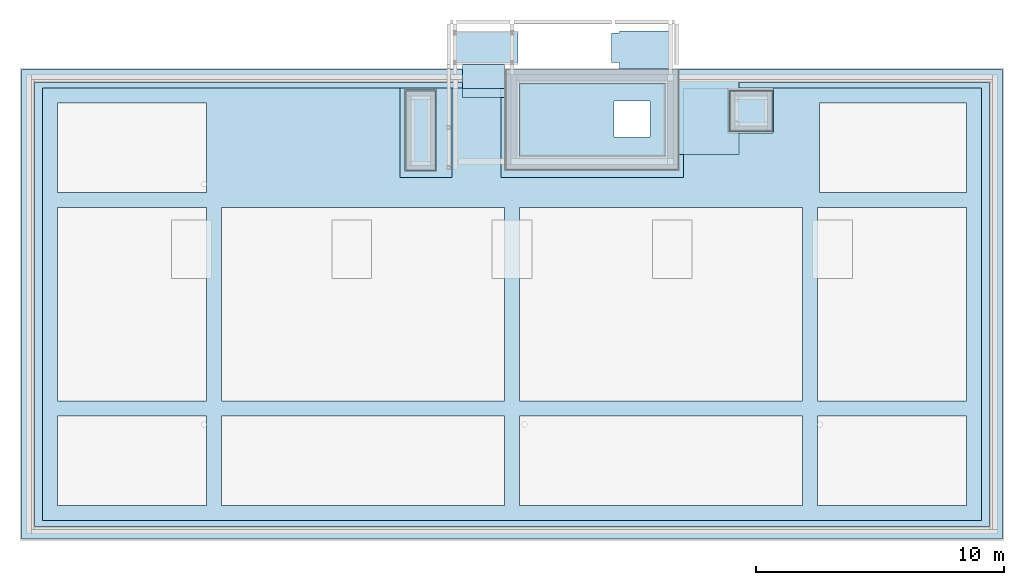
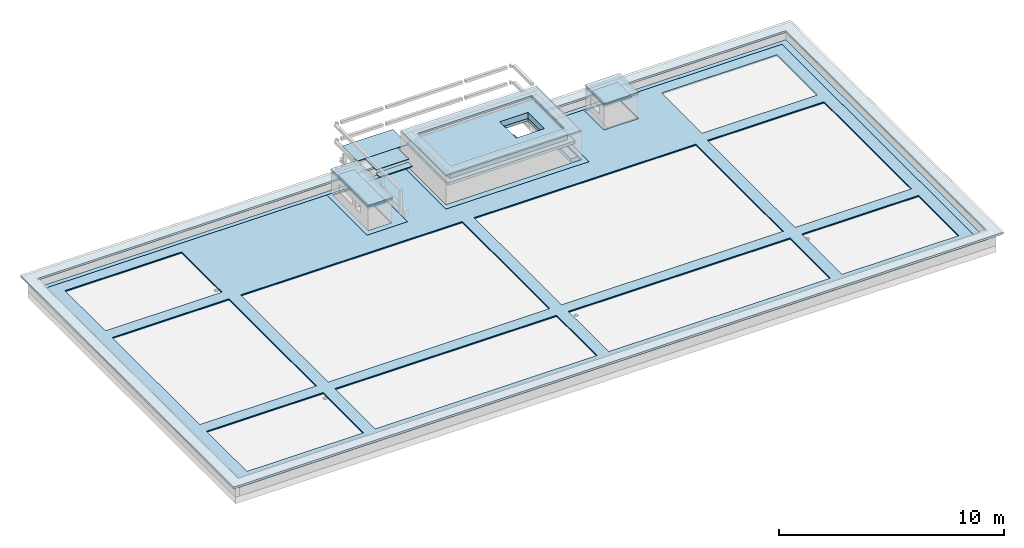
# One storey, part 5 of 8: 19 slabs, 27 openings, 2 elements without a shape of their own.
"""IFC2X3 building model written with IfcOpenShell, lengths in centimetres."""

from ifc_helpers import new_model, entity, si_unit, converted_unit, derived_unit, direction, frame, frame_2d, origin, origin_2d_with_axis, place, context, subcontext, project, spatial, polyline, rectangle, outline, extrude, material, layer, layer_set, layer_usage, type_object, element, aggregate, save


model = new_model("IFC2X3")

# Units and contexts
model_context = context("Model", 3, precision=0.001, world=origin(), true_north=direction((6.12303176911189e-17, 1.0)))
body_context = subcontext(model_context, "Body", "Model", "MODEL_VIEW")
ifc_project = project(units=[si_unit("LENGTHUNIT", "METRE", prefix="CENTI"), si_unit("AREAUNIT", "SQUARE_METRE"), si_unit("VOLUMEUNIT", "CUBIC_METRE"), converted_unit("PLANEANGLEUNIT", "DEGREE", entity("IfcRatioMeasure", 0.0174532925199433), si_unit("PLANEANGLEUNIT", "RADIAN"), dimensions=[0, 0, 0, 0, 0, 0, 0]), si_unit("MASSUNIT", "GRAM", prefix="KILO"), derived_unit("MASSDENSITYUNIT", [(si_unit("MASSUNIT", "GRAM", prefix="KILO"), 1), (si_unit("LENGTHUNIT", "METRE"), -3)]), derived_unit("MOMENTOFINERTIAUNIT", [(si_unit("LENGTHUNIT", "METRE"), 4)]), si_unit("TIMEUNIT", "SECOND"), si_unit("FREQUENCYUNIT", "HERTZ"), si_unit("THERMODYNAMICTEMPERATUREUNIT", "DEGREE_CELSIUS"), derived_unit("THERMALTRANSMITTANCEUNIT", [(si_unit("MASSUNIT", "GRAM", prefix="KILO"), 1), (si_unit("THERMODYNAMICTEMPERATUREUNIT", "KELVIN"), -1), (si_unit("TIMEUNIT", "SECOND"), -3)]), derived_unit("VOLUMETRICFLOWRATEUNIT", [(si_unit("LENGTHUNIT", "METRE"), 3), (si_unit("TIMEUNIT", "SECOND"), -1)]), si_unit("ELECTRICCURRENTUNIT", "AMPERE"), si_unit("ELECTRICVOLTAGEUNIT", "VOLT"), si_unit("POWERUNIT", "WATT"), si_unit("FORCEUNIT", "NEWTON", prefix="KILO"), si_unit("ILLUMINANCEUNIT", "LUX"), si_unit("LUMINOUSFLUXUNIT", "LUMEN"), si_unit("LUMINOUSINTENSITYUNIT", "CANDELA"), derived_unit("USERDEFINED", [(si_unit("MASSUNIT", "GRAM", prefix="KILO"), -1), (si_unit("LENGTHUNIT", "METRE"), -2), (si_unit("TIMEUNIT", "SECOND"), 3), (si_unit("LUMINOUSFLUXUNIT", "LUMEN"), 1)]), derived_unit("LINEARVELOCITYUNIT", [(si_unit("LENGTHUNIT", "METRE"), 1), (si_unit("TIMEUNIT", "SECOND"), -1)]), si_unit("PRESSUREUNIT", "PASCAL"), derived_unit("USERDEFINED", [(si_unit("LENGTHUNIT", "METRE"), -2), (si_unit("MASSUNIT", "GRAM", prefix="KILO"), 1), (si_unit("TIMEUNIT", "SECOND"), -2)]), derived_unit("LINEARFORCEUNIT", [(si_unit("MASSUNIT", "GRAM", prefix="KILO"), 1), (si_unit("LENGTHUNIT", "METRE"), 1), (si_unit("TIMEUNIT", "SECOND"), -2), (si_unit("LENGTHUNIT", "METRE"), -1)]), derived_unit("PLANARFORCEUNIT", [(si_unit("MASSUNIT", "GRAM", prefix="KILO"), 1), (si_unit("LENGTHUNIT", "METRE"), 1), (si_unit("TIMEUNIT", "SECOND"), -2), (si_unit("LENGTHUNIT", "METRE"), -2)])], contexts=[model_context])

# Site, building, storey
site_placement = place(None, origin())
site = spatial("IfcSite", under=ifc_project, at=site_placement, Name="Default", CompositionType="ELEMENT")
building_placement = place(site_placement, origin())
building = spatial("IfcBuilding", under=site, at=building_placement, CompositionType="ELEMENT")
storey_placement = place(building_placement, frame((0.0, 0.0, 970.0)))
storey = spatial("IfcBuildingStorey", under=building, at=storey_placement, Name="Poziom 2K +9,70", CompositionType="ELEMENT", Elevation=970.0)

# Slab, opening
ifc_material_1 = material(Name="_Beton, C25/30")
ifc_layer_1 = layer(ifc_material_1, 15.0)
ifc_layer_set_1 = layer_set([ifc_layer_1], Name="Strop:Strop żebetowy gr. 15cm")
ifc_layer_usage_1 = layer_usage(ifc_layer_set_1, "AXIS3", "POSITIVE", 0.0)
slab_type_1 = type_object("IfcSlabType", Name="Strop:Strop żebetowy gr. 15cm", PredefinedType="FLOOR", material=ifc_layer_set_1)
slab_1_placement = place(storey_placement, frame((-984.265107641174, 1743.12745160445, 109.0)))
slab_1 = element("IfcSlab", 1, at=slab_1_placement, inside=storey, type_object=slab_type_1, material=ifc_layer_usage_1, Name="Strop:Strop żebetowy gr. 15cm", ObjectType="Strop:Strop żebetowy gr. 15cm", PredefinedType="FLOOR", context=body_context, shape_type="SweptSolid", body=[
    extrude(rectangle(XDim=654.999989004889, YDim=362.000000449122, at=frame_2d((0.0, 0.0), x_axis=(-1.0, 0.0))), frame((327.499994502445, 181.0, 15.0), z_axis=(0.0, 0.0, -1.0), x_axis=(-1.0, 0.0, 0.0)), (0.0, 0.0, 1.0), 15.0000000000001),
])
opening_1_placement = place(slab_1_placement, frame((487.500026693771, 183.499991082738, 15.0)))
element("IfcOpeningElement", 2, at=opening_1_placement, cuts=slab_1, Name="Strop:Strop żebetowy gr. 15cm:2", ObjectType="Opening", context=body_context, shape_type="SweptSolid", body=[
    extrude(rectangle(XDim=145.0, YDim=144.999999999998, at=origin_2d_with_axis()), frame((0.0, 0.0, 0.0), z_axis=(0.0, 0.0, -1.0), x_axis=(1.0, 0.0, 0.0)), (0.0, 0.0, 1.0), 15.0000000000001),
])

# Slabs
ifc_material_2 = material(Name="_Beton C30/37")
ifc_layer_2 = layer(ifc_material_2, 20.0)
ifc_layer_set_2 = layer_set([ifc_layer_2], Name="Strop:Strop żelbetowy gr. 20cm")
ifc_layer_usage_2 = layer_usage(ifc_layer_set_2, "AXIS3", "POSITIVE", 0.0)
slab_type_2 = type_object("IfcSlabType", Name="Strop:Strop żelbetowy gr. 20cm", PredefinedType="FLOOR", material=ifc_layer_set_2)
slab_2_placement = place(storey_placement, origin())
element("IfcSlab", 3, at=slab_2_placement, inside=storey, type_object=slab_type_2, material=ifc_layer_usage_2, Name="Strop:Strop żelbetowy gr. 20cm", ObjectType="Strop:Strop żelbetowy gr. 20cm", PredefinedType="FLOOR", context=body_context, shape_type="SweptSolid", body=[
    extrude(rectangle(XDim=301.435259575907, YDim=263.49999754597, at=origin_2d_with_axis()), frame((-197.515113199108, 1934.40982229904, 0.0), z_axis=(0.0, 0.0, -1.0), x_axis=(0.0, 1.0, 0.0)), (0.0, 0.0, 1.0), 20.0),
])
ifc_layer_3 = layer(ifc_material_2, 10.0)
ifc_layer_set_3 = layer_set([ifc_layer_3], Name="Strop:Strop gr. 10 cm")
ifc_layer_usage_3 = layer_usage(ifc_layer_set_3, "AXIS3", "POSITIVE", 0.0)
slab_type_3 = type_object("IfcSlabType", Name="Strop:Strop gr. 10 cm", PredefinedType="FLOOR", material=ifc_layer_set_3)
slab_3_placement = place(storey_placement, origin())
element("IfcSlab", 4, at=slab_3_placement, inside=storey, type_object=slab_type_3, material=ifc_layer_usage_3, Name="Strop:Strop gr. 10 cm", ObjectType="Strop:Strop gr. 10 cm", PredefinedType="FLOOR", context=body_context, shape_type="SweptSolid", body=[
    extrude(rectangle(XDim=280.000146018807, YDim=80.0000584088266, at=frame_2d((0.0, -1.06581410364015e-13), x_axis=(1.0, 0.0))), frame((-1346.76514246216, 1880.12752506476, 143.0), z_axis=(0.0, 0.0, -1.0), x_axis=(0.0, 1.0, 0.0)), (0.0, 0.0, 1.0), 9.99999999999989),
])
ifc_material_3 = material(Name="Polistyren ekstrudowany (XPS)")
ifc_layer_4 = layer(ifc_material_3, 10.0)
ifc_layer_set_4 = layer_set([ifc_layer_4], Name="Strop:Stropodach - Polistyren ekstrudowany (XPS) 10 cm")
ifc_layer_usage_4 = layer_usage(ifc_layer_set_4, "AXIS3", "POSITIVE", 0.0)
slab_type_4 = type_object("IfcSlabType", Name="Strop:Stropodach - Polistyren ekstrudowany (XPS) 10 cm", PredefinedType="FLOOR", material=ifc_layer_set_4)
slab_4_placement = place(storey_placement, origin())
element("IfcSlab", 5, at=slab_4_placement, inside=storey, type_object=slab_type_4, material=ifc_layer_usage_4, Name="Strop:Stropodach - Polistyren ekstrudowany (XPS) 10 cm", ObjectType="Strop:Stropodach - Polistyren ekstrudowany (XPS) 10 cm", PredefinedType="FLOOR", context=body_context, shape_type="SweptSolid", body=[
    extrude(outline(polyline([(-1251.66670097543, -2082.50001004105), (638.33329909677, -2082.50001004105), (638.33329909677, -132.499998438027), (588.333299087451, -132.499998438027), (588.333299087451, -2032.49999843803), (-1201.66649539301, -2032.49999843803), (-1201.66649539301, 1817.500013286), (588.333299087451, 1817.500013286), (588.333299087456, 562.499998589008), (638.333299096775, 562.499998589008), (638.33329909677, 1867.4999950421), (-1251.66670097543, 1867.4999950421), (-1251.66670097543, -2082.50001004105)])), frame((-871.765110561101, 1486.79415299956, 75.0), z_axis=(0.0, 0.0, -1.0), x_axis=(0.0, 1.0, 0.0)), (0.0, 0.0, 1.0), 9.99999999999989),
])

# Slab, openings
ifc_material_4 = material(Name="Płytki tarasowe")
ifc_layer_5 = layer(ifc_material_4, 4.0)
ifc_layer_set_5 = layer_set([ifc_layer_5], Name="Strop:Płytki tarasowe gr. 4cm")
ifc_layer_usage_5 = layer_usage(ifc_layer_set_5, "AXIS3", "POSITIVE", 0.0)
slab_type_5 = type_object("IfcSlabType", Name="Strop:Płytki tarasowe gr. 4cm", PredefinedType="FLOOR", material=ifc_layer_set_5)
slab_5_placement = place(storey_placement, frame((-2869.26511062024, 310.752452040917, 24.0)))
slab_5 = element("IfcSlab", 6, at=slab_5_placement, inside=storey, type_object=slab_type_5, material=ifc_layer_usage_5, Name="Strop:Płytki tarasowe gr. 4cm", ObjectType="Strop:Płytki tarasowe gr. 4cm", PredefinedType="FLOOR", context=body_context, shape_type="SweptSolid", body=[
    extrude(outline(polyline([(1890.0, 870.0), (450.0, 870.0), (450.0, 510.0), (242.49998292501, 510.0), (242.499982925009, 870.0), (45.0, 870.0), (45.0, 510.0), (-690.0, 510.0), (-690.0, 870.0), (-870.0, 870.0), (-870.0, 690.0), (-1050.0, 690.0), (-1050.0, 870.0), (-1890.0, 870.0), (-1890.0, -870.0), (1890.0, -870.0), (1890.0, 870.0)])), frame((1890.0, 870.0, 4.0), z_axis=(0.0, 0.0, -1.0), x_axis=(-1.0, 0.0, 0.0)), (0.0, 0.0, 1.0), 3.99999999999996),
])
opening_2_placement = place(slab_5_placement, frame((360.0, 1500.0, 4.0)))
element("IfcOpeningElement", 7, at=opening_2_placement, cuts=slab_5, Name="Strop:Płytki tarasowe gr. 4cm:2", ObjectType="Opening", context=body_context, shape_type="SweptSolid", body=[
    extrude(rectangle(XDim=600.0, YDim=360.0, at=origin_2d_with_axis()), origin(), (0.0, 0.0, -1.0), 3.99999999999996),
])
opening_3_placement = place(slab_5_placement, frame((360.0, 870.0, 4.0)))
element("IfcOpeningElement", 8, at=opening_3_placement, cuts=slab_5, Name="Strop:Płytki tarasowe gr. 4cm:3", ObjectType="Opening", context=body_context, shape_type="SweptSolid", body=[
    extrude(rectangle(XDim=600.0, YDim=780.000000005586, at=origin_2d_with_axis()), frame((0.0, 0.0, 0.0), z_axis=(0.0, 0.0, -1.0), x_axis=(1.0, 0.0, 0.0)), (0.0, 0.0, 1.0), 3.99999999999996),
])
opening_4_placement = place(slab_5_placement, frame((360.0, 240.0, 4.0)))
element("IfcOpeningElement", 9, at=opening_4_placement, cuts=slab_5, Name="Strop:Płytki tarasowe gr. 4cm:4", ObjectType="Opening", context=body_context, shape_type="SweptSolid", body=[
    extrude(rectangle(XDim=599.999999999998, YDim=359.999999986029, at=origin_2d_with_axis()), frame((0.0, 0.0, 0.0), z_axis=(0.0, 0.0, -1.0), x_axis=(1.0, 0.0, 0.0)), (0.0, 0.0, 1.0), 3.99999999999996),
])
opening_5_placement = place(slab_5_placement, frame((1290.0, 240.0, 4.0)))
element("IfcOpeningElement", 10, at=opening_5_placement, cuts=slab_5, Name="Strop:Płytki tarasowe gr. 4cm:5", ObjectType="Opening", context=body_context, shape_type="SweptSolid", body=[
    extrude(rectangle(XDim=359.999999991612, YDim=1139.99999994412, at=origin_2d_with_axis()), frame((0.0, 0.0, 0.0), z_axis=(0.0, 0.0, -1.0), x_axis=(0.0, -1.0, 0.0)), (0.0, 0.0, 1.0), 3.99999999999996),
])
opening_6_placement = place(slab_5_placement, frame((1290.0, 870.0, 4.0)))
element("IfcOpeningElement", 11, at=opening_6_placement, cuts=slab_5, Name="Strop:Płytki tarasowe gr. 4cm:6", ObjectType="Opening", context=body_context, shape_type="SweptSolid", body=[
    extrude(rectangle(XDim=1139.99999994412, YDim=780.000000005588, at=origin_2d_with_axis()), frame((0.0, 0.0, 0.0), z_axis=(0.0, 0.0, -1.0), x_axis=(-1.0, 0.0, 0.0)), (0.0, 0.0, 1.0), 3.99999999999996),
])
opening_7_placement = place(slab_5_placement, frame((2490.0, 240.0, 4.0)))
element("IfcOpeningElement", 12, at=opening_7_placement, cuts=slab_5, Name="Strop:Płytki tarasowe gr. 4cm:7", ObjectType="Opening", context=body_context, shape_type="SweptSolid", body=[
    extrude(rectangle(XDim=359.999999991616, YDim=1139.9999999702, at=origin_2d_with_axis()), frame((0.0, 0.0, 0.0), z_axis=(0.0, 0.0, -1.0), x_axis=(0.0, 1.0, 0.0)), (0.0, 0.0, 1.0), 3.99999999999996),
])
opening_8_placement = place(slab_5_placement, frame((3420.0, 240.0, 4.0)))
element("IfcOpeningElement", 13, at=opening_8_placement, cuts=slab_5, Name="Strop:Płytki tarasowe gr. 4cm:8", ObjectType="Opening", context=body_context, shape_type="SweptSolid", body=[
    extrude(rectangle(XDim=600.000000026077, YDim=359.999999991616, at=origin_2d_with_axis()), frame((0.0, 0.0, 0.0), z_axis=(0.0, 0.0, -1.0), x_axis=(-1.0, 0.0, 0.0)), (0.0, 0.0, 1.0), 3.99999999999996),
])
opening_9_placement = place(slab_5_placement, frame((3420.0, 870.0, 4.0)))
element("IfcOpeningElement", 14, at=opening_9_placement, cuts=slab_5, Name="Strop:Płytki tarasowe gr. 4cm:9", ObjectType="Opening", context=body_context, shape_type="SweptSolid", body=[
    extrude(rectangle(XDim=780.000000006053, YDim=600.000000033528, at=origin_2d_with_axis()), frame((0.0, 0.0, 0.0), z_axis=(0.0, 0.0, -1.0), x_axis=(0.0, 1.0, 0.0)), (0.0, 0.0, 1.0), 3.99999999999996),
])
opening_10_placement = place(slab_5_placement, frame((3423.8200030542, 1500.0, 4.0)))
element("IfcOpeningElement", 15, at=opening_10_placement, cuts=slab_5, Name="Strop:Płytki tarasowe gr. 4cm:10", ObjectType="Opening", context=body_context, shape_type="SweptSolid", body=[
    extrude(rectangle(XDim=359.99999996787, YDim=592.359993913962, at=origin_2d_with_axis()), frame((0.0, 0.0, 0.0), z_axis=(0.0, 0.0, -1.0), x_axis=(0.0, 1.0, 0.0)), (0.0, 0.0, 1.0), 3.99999999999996),
])
opening_11_placement = place(slab_5_placement, frame((2490.0, 870.0, 4.0)))
element("IfcOpeningElement", 16, at=opening_11_placement, cuts=slab_5, Name="Strop:Płytki tarasowe gr. 4cm:11", ObjectType="Opening", context=body_context, shape_type="SweptSolid", body=[
    extrude(rectangle(XDim=780.000000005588, YDim=1139.9999999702, at=origin_2d_with_axis()), frame((0.0, 0.0, 0.0), z_axis=(0.0, 0.0, -1.0), x_axis=(0.0, 1.0, 0.0)), (0.0, 0.0, 1.0), 3.99999999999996),
])

# Slab, opening
ifc_material_5 = material(Name="Opaska żwirowa")
ifc_layer_6 = layer(ifc_material_5, 8.0)
ifc_layer_set_6 = layer_set([ifc_layer_6], Name="Strop:Opaska żwirowa gr. 8cm")
ifc_layer_usage_6 = layer_usage(ifc_layer_set_6, "AXIS3", "POSITIVE", 0.0)
slab_type_6 = type_object("IfcSlabType", Name="Strop:Opaska żwirowa gr. 8cm", PredefinedType="FLOOR", material=ifc_layer_set_6)
slab_6_placement = place(storey_placement, frame((-2902.26510899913, 287.12765760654, 20.0)))
slab_6 = element("IfcSlab", 17, at=slab_6_placement, inside=storey, type_object=slab_type_6, material=ifc_layer_usage_6, Name="Strop:Opaska żwirowa gr. 8cm", ObjectType="Strop:Opaska żwirowa gr. 8cm", PredefinedType="FLOOR", context=body_context, shape_type="SweptSolid", body=[
    extrude(outline(polyline([(27.0000058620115, 892.99989724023), (27.0000058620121, 540.999895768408), (-671.999991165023, 540.999895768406), (-671.999991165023, 892.999897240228), (-1923.00000586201, 892.999897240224), (-1923.00000586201, -892.99989724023), (1923.00000586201, -892.99989724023), (1923.00000586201, 892.999897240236), (27.0000058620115, 892.99989724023)])), frame((1923.00000586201, 892.99989724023, 8.0), z_axis=(0.0, 0.0, -1.0), x_axis=(-1.0, 0.0, 0.0)), (0.0, 0.0, 1.0), 7.99999999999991),
])
opening_12_placement = place(slab_6_placement, frame((2084.24999838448, 1238.6247944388, 8.0)))
element("IfcOpeningElement", 18, at=opening_12_placement, cuts=slab_6, Name="Strop:Opaska żwirowa gr. 8cm:2", ObjectType="Opening", context=body_context, shape_type="SweptSolid", body=[
    extrude(outline(polyline([(-2051.25000000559, -525.0), (-206.250000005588, -525.0), (-206.250000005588, -165.0), (528.750000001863, -165.0), (528.750000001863, -525.0), (1728.75000000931, -525.0), (1728.75000000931, 1215.0), (-2051.25000000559, 1215.0), (-2051.25000000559, -525.0)])), frame((0.0, 0.0, 0.0), z_axis=(0.0, 0.0, -1.0), x_axis=(1.0, 0.0, 0.0)), (0.0, 0.0, 1.0), 7.99999999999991),
])

# Slab
ifc_layer_usage_7 = layer_usage(ifc_layer_set_3, "AXIS3", "POSITIVE", 0.0)
slab_type_7 = type_object("IfcSlabType", Name="Strop:Strop gr. 10 cm", PredefinedType="FLOOR", material=ifc_layer_set_3)
slab_7_placement = place(storey_placement, origin())
element("IfcSlab", 19, at=slab_7_placement, inside=storey, type_object=slab_type_7, material=ifc_layer_usage_7, Name="Strop:Strop gr. 10 cm", ObjectType="Strop:Strop gr. 10 cm", PredefinedType="FLOOR", context=body_context, shape_type="SweptSolid", body=[
    extrude(rectangle(XDim=120.001722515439, YDim=129.999993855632, at=frame_2d((-1.10134124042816e-13, 0.0), x_axis=(1.0, 0.0))), frame((-15.765117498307, 1959.12664952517, 143.0), z_axis=(0.0, 0.0, -1.0), x_axis=(0.0, 1.0, 0.0)), (0.0, 0.0, 1.0), 9.99999999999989),
])

# Slab, opening
ifc_material_6 = material(Name="Wełna skalna")
ifc_layer_7 = layer(ifc_material_6, 32.0)
ifc_layer_set_7 = layer_set([ifc_layer_7], Name="Strop:Wełna mineralna gr. 32 cm")
ifc_layer_usage_8 = layer_usage(ifc_layer_set_7, "AXIS3", "POSITIVE", 0.0)
slab_type_8 = type_object("IfcSlabType", Name="Strop:Wełna mineralna gr. 32 cm", PredefinedType="FLOOR", material=ifc_layer_set_7)
slab_8_placement = place(storey_placement, frame((-959.265107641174, 1768.12745205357, 124.0)))
slab_8 = element("IfcSlab", 20, at=slab_8_placement, inside=storey, type_object=slab_type_8, material=ifc_layer_usage_8, Name="Strop:Wełna mineralna gr. 32 cm", ObjectType="Strop:Wełna mineralna gr. 32 cm", PredefinedType="FLOOR", context=body_context, shape_type="SweptSolid", body=[
    extrude(rectangle(XDim=604.99999566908, YDim=312.0, at=frame_2d((0.0, 0.0), x_axis=(-1.0, 0.0))), frame((302.499997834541, 156.0, 32.0), z_axis=(0.0, 0.0, -1.0), x_axis=(-1.0, 0.0, 0.0)), (0.0, 0.0, 1.0), 32.0000000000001),
])
opening_13_placement = place(slab_8_placement, frame((462.500026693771, 158.499990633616, 32.0)))
element("IfcOpeningElement", 21, at=opening_13_placement, cuts=slab_8, Name="Strop:Wełna mineralna gr. 32 cm:2", ObjectType="Opening", context=body_context, shape_type="SweptSolid", body=[
    extrude(rectangle(XDim=145.0, YDim=144.999999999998, at=origin_2d_with_axis()), frame((0.0, 0.0, 0.0), z_axis=(0.0, 0.0, -1.0), x_axis=(1.0, 0.0, 0.0)), (0.0, 0.0, 1.0), 32.0000000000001),
])

ifc_layer_8 = layer(ifc_material_6, 10.0)
ifc_layer_set_8 = layer_set([ifc_layer_8], Name="Strop:Wełna mineralna gr. 10cm")
ifc_layer_usage_9 = layer_usage(ifc_layer_set_8, "AXIS3", "POSITIVE", 0.0)
slab_type_9 = type_object("IfcSlabType", Name="Strop:Wełna mineralna gr. 10cm", PredefinedType="FLOOR", material=ifc_layer_set_8)
slab_9_placement = place(storey_placement, frame((-1004.26510899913, 1723.12745061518, 174.0)))
slab_9 = element("IfcSlab", 22, at=slab_9_placement, inside=storey, type_object=slab_type_9, material=ifc_layer_usage_9, Name="Strop:Wełna mineralna gr. 10cm", ObjectType="Strop:Wełna mineralna gr. 10cm", PredefinedType="FLOOR", context=body_context, shape_type="SweptSolid", body=[
    extrude(rectangle(XDim=402.000001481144, YDim=694.999997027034, at=frame_2d((0.0, 0.0), x_axis=(0.0, -1.0))), frame((347.499998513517, 201.000000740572, 10.0), z_axis=(0.0, 0.0, -1.0), x_axis=(-1.0, 0.0, 0.0)), (0.0, 0.0, 1.0), 10.0000000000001),
])
opening_14_placement = place(slab_9_placement, frame((347.500121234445, 201.000001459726, 10.0)))
element("IfcOpeningElement", 23, at=opening_14_placement, cuts=slab_9, Name="Strop:Wełna mineralna gr. 10cm:2", ObjectType="Opening", context=body_context, shape_type="SweptSolid", body=[
    extrude(rectangle(XDim=292.000000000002, YDim=585.0, at=origin_2d_with_axis()), frame((0.0, 0.0, 0.0), z_axis=(0.0, 0.0, -1.0), x_axis=(0.0, 1.0, 0.0)), (0.0, 0.0, 1.0), 10.0000000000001),
])

# Slabs
ifc_layer_9 = layer(ifc_material_6, 20.0)
ifc_layer_set_9 = layer_set([ifc_layer_9], Name="Strop:Wełna mineralna gr. 20cm")
ifc_layer_usage_10 = layer_usage(ifc_layer_set_9, "AXIS3", "POSITIVE", 0.0)
slab_type_10 = type_object("IfcSlabType", Name="Strop:Wełna mineralna gr. 20cm", PredefinedType="FLOOR", material=ifc_layer_set_9)
slab_10_placement = place(storey_placement, origin())
element("IfcSlab", 24, at=slab_10_placement, inside=storey, type_object=slab_type_10, material=ifc_layer_usage_10, Name="Strop:Wełna mineralna gr. 20cm", ObjectType="Strop:Wełna mineralna gr. 20cm", PredefinedType="FLOOR", context=body_context, shape_type="SweptSolid", body=[
    extrude(rectangle(XDim=160.00172251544, YDim=169.999993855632, at=origin_2d_with_axis()), frame((-15.765117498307, 1959.12664952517, 163.0), z_axis=(0.0, 0.0, -1.0), x_axis=(0.0, 1.0, 0.0)), (0.0, 0.0, 1.0), 20.0),
])
ifc_layer_usage_11 = layer_usage(ifc_layer_set_9, "AXIS3", "POSITIVE", 0.0)
slab_type_11 = type_object("IfcSlabType", Name="Strop:Wełna mineralna gr. 20cm", PredefinedType="FLOOR", material=ifc_layer_set_9)
slab_11_placement = place(storey_placement, origin())
element("IfcSlab", 25, at=slab_11_placement, inside=storey, type_object=slab_type_11, material=ifc_layer_usage_11, Name="Strop:Wełna mineralna gr. 20cm", ObjectType="Strop:Wełna mineralna gr. 20cm", PredefinedType="FLOOR", context=body_context, shape_type="SweptSolid", body=[
    extrude(rectangle(XDim=320.000146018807, YDim=120.000058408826, at=frame_2d((0.0, -2.16715534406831e-13), x_axis=(1.0, 0.0))), frame((-1346.76514246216, 1880.12752506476, 163.0), z_axis=(0.0, 0.0, -1.0), x_axis=(0.0, 1.0, 0.0)), (0.0, 0.0, 1.0), 20.0),
])

# Roof, slab, opening
ifc_material_7 = material(Name="Blacha tytna cynk")
roof_1_placement = place(storey_placement, origin())
roof_1 = element("IfcRoof", 26, at=roof_1_placement, inside=storey, material=ifc_material_7, Name="Obróbka komina 1:Obróbka komina 1", ObjectType="Obróbka komina 1:Obróbka komina 1", ShapeType="NOTDEFINED")
slab_type_12 = type_object("IfcSlabType", Name="Obróbka komina 1:Obróbka komina 1", PredefinedType="ROOF")
slab_12_placement = place(storey_placement, origin())
slab_12 = element("IfcSlab", 27, at=slab_12_placement, type_object=slab_type_12, Name="Obróbka komina 1:Obróbka komina 1:1", ObjectType="Obróbka komina 1:Obróbka komina 1", PredefinedType="ROOF", context=body_context, shape_type="SweptSolid", body=[
    extrude(rectangle(XDim=180.000612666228, YDim=170.002341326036, at=frame_2d((1.4210854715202e-14, 0.0), x_axis=(1.0, 0.0))), frame((-15.7651174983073, 1959.12664952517, 167.500211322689), z_axis=(0.0, 0.0, 1.0), x_axis=(-1.0, 0.0, 0.0)), (0.0, 0.0, 1.0), 0.500000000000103),
    extrude(rectangle(XDim=170.002341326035, YDim=180.000612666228, at=frame_2d((-1.13686837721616e-13, 1.77635683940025e-13), x_axis=(1.0, 0.0))), frame((-15.7651174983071, 1959.12664952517, 158.000211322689), z_axis=(0.0, 0.0, 1.0), x_axis=(0.0, 1.0, 0.0)), (0.0, 0.0, 1.0), 9.50000000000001),
])
opening_15_placement = place(storey_placement, origin())
element("IfcOpeningElement", 28, at=opening_15_placement, cuts=slab_12, Name="Obróbka komina 1:Obróbka komina 1:1", ObjectType="Opening", context=body_context, shape_type="SweptSolid", body=[
    extrude(rectangle(XDim=179.000615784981, YDim=169.002344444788, at=frame_2d((-1.4210854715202e-13, -1.06581410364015e-13), x_axis=(1.0, 0.0))), frame((-15.7651174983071, 1959.12664952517, 158.000211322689), z_axis=(0.0, 0.0, 1.0), x_axis=(-1.0, 0.0, 0.0)), (0.0, 0.0, 1.0), 9.50000000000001),
])
aggregate(roof_1, [slab_12])

roof_2_placement = place(storey_placement, origin())
roof_2 = element("IfcRoof", 29, at=roof_2_placement, inside=storey, material=ifc_material_7, Name="Obróbka komina 2:Obróbka komina 2", ObjectType="Obróbka komina 2:Obróbka komina 2", ShapeType="NOTDEFINED")
slab_type_13 = type_object("IfcSlabType", Name="Obróbka komina 2:Obróbka komina 2", PredefinedType="ROOF")
slab_13_placement = place(storey_placement, origin())
slab_13 = element("IfcSlab", 30, at=slab_13_placement, type_object=slab_type_13, Name="Obróbka komina 2:Obróbka komina 2:1", ObjectType="Obróbka komina 2:Obróbka komina 2", PredefinedType="ROOF", context=body_context, shape_type="SweptSolid", body=[
    extrude(rectangle(XDim=329.99990046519, YDim=129.99981285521, at=frame_2d((0.0, 1.13686837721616e-13), x_axis=(1.0, 0.0))), frame((-1346.76514246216, 1880.12752506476, 167.500232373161), z_axis=(0.0, 0.0, 1.0), x_axis=(0.0, -1.0, 0.0)), (0.0, 0.0, 1.0), 0.500000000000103),
    extrude(rectangle(XDim=329.99990046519, YDim=129.99981285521, at=frame_2d((0.0, 3.26849658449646e-13), x_axis=(1.0, 0.0))), frame((-1346.76514246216, 1880.12752506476, 158.000214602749), z_axis=(0.0, 0.0, 1.0), x_axis=(0.0, 1.0, 0.0)), (0.0, 0.0, 1.0), 9.50001777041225),
])
opening_16_placement = place(storey_placement, origin())
element("IfcOpeningElement", 31, at=opening_16_placement, cuts=slab_13, Name="Obróbka komina 2:Obróbka komina 2:1", ObjectType="Opening", context=body_context, shape_type="SweptSolid", body=[
    extrude(rectangle(XDim=128.999815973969, YDim=328.999903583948, at=frame_2d((-3.26849658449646e-13, 0.0), x_axis=(1.0, 0.0))), frame((-1346.76514246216, 1880.12752506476, 158.000214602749), z_axis=(0.0, 0.0, 1.0), x_axis=(-1.0, 0.0, 0.0)), (0.0, 0.0, 1.0), 9.50001777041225),
])
aggregate(roof_2, [slab_13])

# Slabs
ifc_material_8 = material(Name="_Metal krata pomostowa")
ifc_layer_10 = layer(ifc_material_8, 4.0)
ifc_layer_set_10 = layer_set([ifc_layer_10], Name="Strop:Krata pomostowa techniczna")
ifc_layer_usage_12 = layer_usage(ifc_layer_set_10, "AXIS3", "POSITIVE", 0.0)
slab_type_14 = type_object("IfcSlabType", Name="Strop:Krata pomostowa techniczna", PredefinedType="FLOOR", material=ifc_layer_set_10)
slab_14_placement = place(storey_placement, origin())
element("IfcSlab", 32, at=slab_14_placement, inside=storey, type_object=slab_type_14, material=ifc_layer_usage_12, Name="Strop:Krata pomostowa techniczna", ObjectType="Strop:Krata pomostowa techniczna", PredefinedType="FLOOR", context=body_context, shape_type="SweptSolid", body=[
    extrude(rectangle(XDim=134.991465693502, YDim=262.183041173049, at=frame_2d((2.1316282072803e-13, -1.56319401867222e-13), x_axis=(1.0, 0.0))), frame((-1086.1332326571, 2213.63035221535, 80.0), z_axis=(0.0, 0.0, -1.0), x_axis=(0.0, 1.0, 0.0)), (0.0, 0.0, 1.0), 3.99999999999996),
])
ifc_layer_usage_13 = layer_usage(ifc_layer_set_10, "AXIS3", "POSITIVE", 0.0)
slab_type_15 = type_object("IfcSlabType", Name="Strop:Krata pomostowa techniczna", PredefinedType="FLOOR", material=ifc_layer_set_10)
slab_15_placement = place(storey_placement, origin())
element("IfcSlab", 33, at=slab_15_placement, inside=storey, type_object=slab_type_15, material=ifc_layer_usage_13, Name="Strop:Krata pomostowa techniczna", ObjectType="Strop:Krata pomostowa techniczna", PredefinedType="FLOOR", context=body_context, shape_type="SweptSolid", body=[
    extrude(outline(polyline([(-55.2034185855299, -77.7066088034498), (64.7689825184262, -77.7066088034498), (64.7689825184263, -45.2933911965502), (72.0647175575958, -45.2933911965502), (72.0647175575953, 168.20660880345), (-81.6302814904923, 168.20660880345), (-81.6302814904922, -45.2066088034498), (-55.2034185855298, -45.2066088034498), (-55.2034185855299, -77.7066088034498)])), frame((-501.971717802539, 2208.75773358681, -165.0), z_axis=(0.0, 0.0, -1.0), x_axis=(0.0, 1.0, 0.0)), (0.0, 0.0, 1.0), 3.99999999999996),
])

# Slab, openings
ifc_material_9 = material(Name="Piasek")
ifc_layer_11 = layer(ifc_material_9, 4.0)
ifc_layer_set_11 = layer_set([ifc_layer_11], Name="Strop:Piasek gr. 4cm")
ifc_layer_usage_14 = layer_usage(ifc_layer_set_11, "AXIS3", "POSITIVE", 0.0)
slab_type_16 = type_object("IfcSlabType", Name="Strop:Piasek gr. 4cm", PredefinedType="FLOOR", material=ifc_layer_set_11)
slab_16_placement = place(storey_placement, frame((-2869.26511062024, 310.752452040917, 20.0)))
slab_16 = element("IfcSlab", 34, at=slab_16_placement, inside=storey, type_object=slab_type_16, material=ifc_layer_usage_14, Name="Strop:Piasek gr. 4cm", ObjectType="Strop:Piasek gr. 4cm", PredefinedType="FLOOR", context=body_context, shape_type="SweptSolid", body=[
    extrude(outline(polyline([(1890.0, 870.0), (450.0, 870.0), (450.0, 510.0), (242.49998292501, 510.0), (242.499982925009, 870.0), (45.0, 870.0), (45.0, 510.0), (-690.0, 510.0), (-690.0, 870.0), (-870.0, 870.0), (-870.0, 690.0), (-1050.0, 690.0), (-1050.0, 870.0), (-1890.0, 870.0), (-1890.0, -870.0), (1890.0, -870.0), (1890.0, 870.0)])), frame((1890.0, 870.0, 4.0), z_axis=(0.0, 0.0, -1.0), x_axis=(-1.0, 0.0, 0.0)), (0.0, 0.0, 1.0), 3.99999999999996),
])
opening_17_placement = place(slab_16_placement, frame((360.0, 1500.0, 4.0)))
element("IfcOpeningElement", 35, at=opening_17_placement, cuts=slab_16, Name="Strop:Piasek gr. 4cm:2", ObjectType="Opening", context=body_context, shape_type="SweptSolid", body=[
    extrude(rectangle(XDim=600.0, YDim=360.0, at=origin_2d_with_axis()), origin(), (0.0, 0.0, -1.0), 3.99999999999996),
])
opening_18_placement = place(slab_16_placement, frame((360.0, 870.0, 4.0)))
element("IfcOpeningElement", 36, at=opening_18_placement, cuts=slab_16, Name="Strop:Piasek gr. 4cm:3", ObjectType="Opening", context=body_context, shape_type="SweptSolid", body=[
    extrude(rectangle(XDim=600.0, YDim=780.000000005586, at=origin_2d_with_axis()), frame((0.0, 0.0, 0.0), z_axis=(0.0, 0.0, -1.0), x_axis=(1.0, 0.0, 0.0)), (0.0, 0.0, 1.0), 3.99999999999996),
])
opening_19_placement = place(slab_16_placement, frame((360.0, 240.0, 4.0)))
element("IfcOpeningElement", 37, at=opening_19_placement, cuts=slab_16, Name="Strop:Piasek gr. 4cm:4", ObjectType="Opening", context=body_context, shape_type="SweptSolid", body=[
    extrude(rectangle(XDim=599.999999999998, YDim=359.999999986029, at=origin_2d_with_axis()), frame((0.0, 0.0, 0.0), z_axis=(0.0, 0.0, -1.0), x_axis=(1.0, 0.0, 0.0)), (0.0, 0.0, 1.0), 3.99999999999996),
])
opening_20_placement = place(slab_16_placement, frame((1290.0, 240.0, 4.0)))
element("IfcOpeningElement", 38, at=opening_20_placement, cuts=slab_16, Name="Strop:Piasek gr. 4cm:5", ObjectType="Opening", context=body_context, shape_type="SweptSolid", body=[
    extrude(rectangle(XDim=359.999999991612, YDim=1139.99999994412, at=origin_2d_with_axis()), frame((0.0, 0.0, 0.0), z_axis=(0.0, 0.0, -1.0), x_axis=(0.0, -1.0, 0.0)), (0.0, 0.0, 1.0), 3.99999999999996),
])
opening_21_placement = place(slab_16_placement, frame((1290.0, 870.0, 4.0)))
element("IfcOpeningElement", 39, at=opening_21_placement, cuts=slab_16, Name="Strop:Piasek gr. 4cm:6", ObjectType="Opening", context=body_context, shape_type="SweptSolid", body=[
    extrude(rectangle(XDim=1139.99999994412, YDim=780.000000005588, at=origin_2d_with_axis()), frame((0.0, 0.0, 0.0), z_axis=(0.0, 0.0, -1.0), x_axis=(-1.0, 0.0, 0.0)), (0.0, 0.0, 1.0), 3.99999999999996),
])
opening_22_placement = place(slab_16_placement, frame((2490.0, 240.0, 4.0)))
element("IfcOpeningElement", 40, at=opening_22_placement, cuts=slab_16, Name="Strop:Piasek gr. 4cm:7", ObjectType="Opening", context=body_context, shape_type="SweptSolid", body=[
    extrude(rectangle(XDim=359.999999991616, YDim=1139.9999999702, at=origin_2d_with_axis()), frame((0.0, 0.0, 0.0), z_axis=(0.0, 0.0, -1.0), x_axis=(0.0, 1.0, 0.0)), (0.0, 0.0, 1.0), 3.99999999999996),
])
opening_23_placement = place(slab_16_placement, frame((3420.0, 240.0, 4.0)))
element("IfcOpeningElement", 41, at=opening_23_placement, cuts=slab_16, Name="Strop:Piasek gr. 4cm:8", ObjectType="Opening", context=body_context, shape_type="SweptSolid", body=[
    extrude(rectangle(XDim=600.000000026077, YDim=359.999999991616, at=origin_2d_with_axis()), frame((0.0, 0.0, 0.0), z_axis=(0.0, 0.0, -1.0), x_axis=(-1.0, 0.0, 0.0)), (0.0, 0.0, 1.0), 3.99999999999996),
])
opening_24_placement = place(slab_16_placement, frame((3420.0, 870.0, 4.0)))
element("IfcOpeningElement", 42, at=opening_24_placement, cuts=slab_16, Name="Strop:Piasek gr. 4cm:9", ObjectType="Opening", context=body_context, shape_type="SweptSolid", body=[
    extrude(rectangle(XDim=780.000000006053, YDim=600.000000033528, at=origin_2d_with_axis()), frame((0.0, 0.0, 0.0), z_axis=(0.0, 0.0, -1.0), x_axis=(0.0, 1.0, 0.0)), (0.0, 0.0, 1.0), 3.99999999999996),
])
opening_25_placement = place(slab_16_placement, frame((3423.8200030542, 1500.0, 4.0)))
element("IfcOpeningElement", 43, at=opening_25_placement, cuts=slab_16, Name="Strop:Piasek gr. 4cm:10", ObjectType="Opening", context=body_context, shape_type="SweptSolid", body=[
    extrude(rectangle(XDim=359.99999996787, YDim=592.359993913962, at=origin_2d_with_axis()), frame((0.0, 0.0, 0.0), z_axis=(0.0, 0.0, -1.0), x_axis=(0.0, 1.0, 0.0)), (0.0, 0.0, 1.0), 3.99999999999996),
])
opening_26_placement = place(slab_16_placement, frame((2490.0, 870.0, 4.0)))
element("IfcOpeningElement", 44, at=opening_26_placement, cuts=slab_16, Name="Strop:Piasek gr. 4cm:11", ObjectType="Opening", context=body_context, shape_type="SweptSolid", body=[
    extrude(rectangle(XDim=780.000000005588, YDim=1139.9999999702, at=origin_2d_with_axis()), frame((0.0, 0.0, 0.0), z_axis=(0.0, 0.0, -1.0), x_axis=(0.0, 1.0, 0.0)), (0.0, 0.0, 1.0), 3.99999999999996),
])

# Slab, opening
ifc_layer_12 = layer(ifc_material_9, 8.0)
ifc_layer_set_12 = layer_set([ifc_layer_12], Name="Strop:Piasek gr. 8cm")
ifc_layer_usage_15 = layer_usage(ifc_layer_set_12, "AXIS3", "POSITIVE", 0.0)
slab_type_17 = type_object("IfcSlabType", Name="Strop:Piasek gr. 8cm", PredefinedType="FLOOR", material=ifc_layer_set_12)
slab_17_placement = place(storey_placement, frame((-1429.26511060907, 1690.75245204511, 20.0)))
slab_17 = element("IfcSlab", 45, at=slab_17_placement, inside=storey, type_object=slab_type_17, material=ifc_layer_usage_15, Name="Strop:Piasek gr. 8cm", ObjectType="Strop:Piasek gr. 8cm", PredefinedType="FLOOR", context=body_context, shape_type="SweptSolid", body=[
    extrude(rectangle(XDim=207.500017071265, YDim=360.00000000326, at=origin_2d_with_axis()), frame((103.750008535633, 180.0, 8.0), z_axis=(0.0, 0.0, -1.0), x_axis=(-1.0, 0.0, 0.0)), (0.0, 0.0, 1.0), 7.99999999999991),
])
opening_27_placement = place(slab_17_placement, frame((82.4999681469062, 189.375073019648, 8.0)))
element("IfcOpeningElement", 46, at=opening_27_placement, cuts=slab_17, Name="Strop:Piasek gr. 8cm:2", ObjectType="Opening", context=body_context, shape_type="SweptSolid", body=[
    extrude(rectangle(XDim=320.000146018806, YDim=120.000058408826, at=origin_2d_with_axis()), frame((0.0, 0.0, 0.0), z_axis=(0.0, 0.0, -1.0), x_axis=(0.0, 1.0, 0.0)), (0.0, 0.0, 1.0), 7.99999999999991),
])

# Slabs
ifc_layer_usage_16 = layer_usage(ifc_layer_set_10, "AXIS3", "POSITIVE", 0.0)
slab_type_18 = type_object("IfcSlabType", Name="Strop:Krata pomostowa techniczna", PredefinedType="FLOOR", material=ifc_layer_set_10)
slab_18_placement = place(storey_placement, origin())
element("IfcSlab", 47, at=slab_18_placement, inside=storey, type_object=slab_type_18, material=ifc_layer_usage_16, Name="Strop:Krata pomostowa techniczna", ObjectType="Strop:Krata pomostowa techniczna", PredefinedType="FLOOR", context=body_context, shape_type="SweptSolid", body=[
    extrude(rectangle(XDim=100.358511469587, YDim=168.49983818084, at=frame_2d((-2.16715534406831e-13, 1.06581410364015e-13), x_axis=(1.0, 0.0))), frame((-1093.51519112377, 2095.95536363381, 80.0), z_axis=(0.0, 0.0, -1.0), x_axis=(0.0, 1.0, 0.0)), (0.0, 0.0, 1.0), 3.99999999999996),
])
ifc_layer_usage_17 = layer_usage(ifc_layer_set_10, "AXIS3", "POSITIVE", 0.0)
slab_type_19 = type_object("IfcSlabType", Name="Strop:Krata pomostowa techniczna", PredefinedType="FLOOR", material=ifc_layer_set_10)
slab_19_placement = place(storey_placement, origin())
element("IfcSlab", 48, at=slab_19_placement, inside=storey, type_object=slab_type_19, material=ifc_layer_usage_17, Name="Strop:Krata pomostowa techniczna", ObjectType="Strop:Krata pomostowa techniczna", PredefinedType="FLOOR", context=body_context, shape_type="SweptSolid", body=[
    extrude(rectangle(XDim=36.1486910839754, YDim=168.49943228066, at=frame_2d((-2.16715534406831e-13, 1.06581410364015e-13), x_axis=(1.0, 0.0))), frame((-1093.51498817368, 2031.20176235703, 60.7999999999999), z_axis=(0.0, 0.0, -1.0), x_axis=(0.0, 1.0, 0.0)), (0.0, 0.0, 1.0), 3.99999999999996),
])

save(model, "model.ifc")
